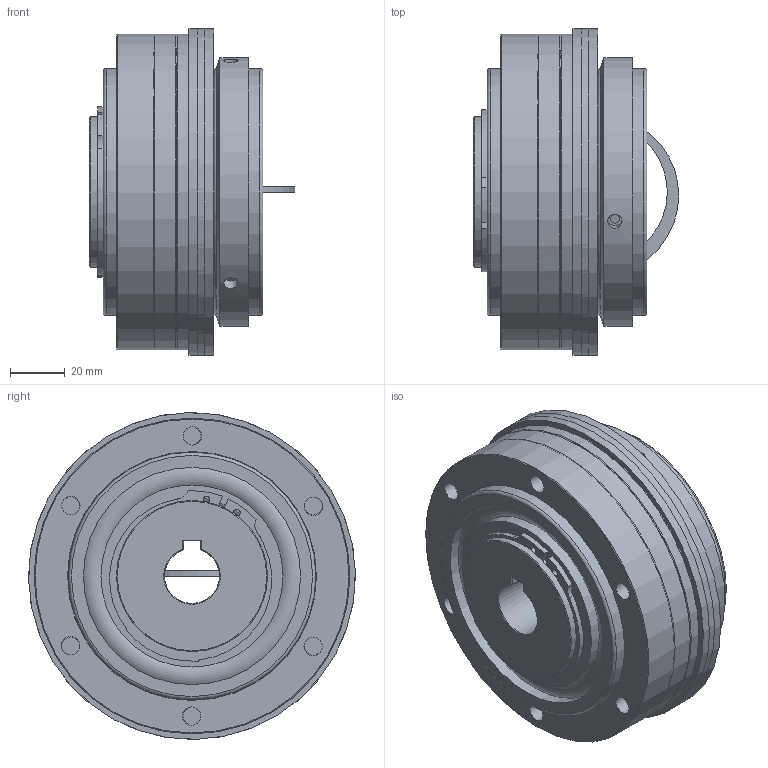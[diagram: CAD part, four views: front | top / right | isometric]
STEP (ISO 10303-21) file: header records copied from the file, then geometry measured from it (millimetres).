
FILE_DESCRIPTION( ( 'Unknown' ), '1' );
FILE_NAME( 'C:/Dokumente und Einstellungen/Sven/Desktop/hp kbk/KBK L-P-300.stp', 'Unknown', ( 'Unknown' ), ( 'Unknown' ), 'XStep 1.0', 'Unknown', ' ' );
FILE_SCHEMA( ( 'automotive_design' ) );
Length unit declared in the file: millimetre
Products named in the file (10): Assem1; Assem2; ball_bearing_-_6011_0_01_0; ball_bearing_-_6011_0_02_0; ball_bearing_-_6011_0_03_0; Kupplung L-P-300 Grundkörper_0; Stellring 300_0; Druckring 300_0; Flansch 300_0; a_55_0
Bounding box: 74.79 x 119 x 119 mm (x, y, z)
Volume: 892537.6 mm3; surface area: 272205.7 mm2
Topology: 19 solids, 19 shells, 233 faces, 478 edges, 301 vertices
Faces by surface type: cylinder 96, plane 82, cone 30, torus 25
Full cylindrical faces by diameter (mm): 2.5 x4, 3.242 x6, 5.2 x6, 6.647 x12, 52 x2, 55 x7, 66.3 x6, 70 x2, 76 x4, 79.1 x6, 83.5 x2, 89 x2, 90 x5, 98 x2, 98.5 x2, 115 x4, 119 x2
Entity records: 3025 total; most frequent: CARTESIAN_POINT 728, DIRECTION 486, ORIENTED_EDGE 298, AXIS2_PLACEMENT_3D 225, EDGE_LOOP 198, FACE_OUTER_BOUND 149, EDGE_CURVE 149, VERTEX_POINT 125
